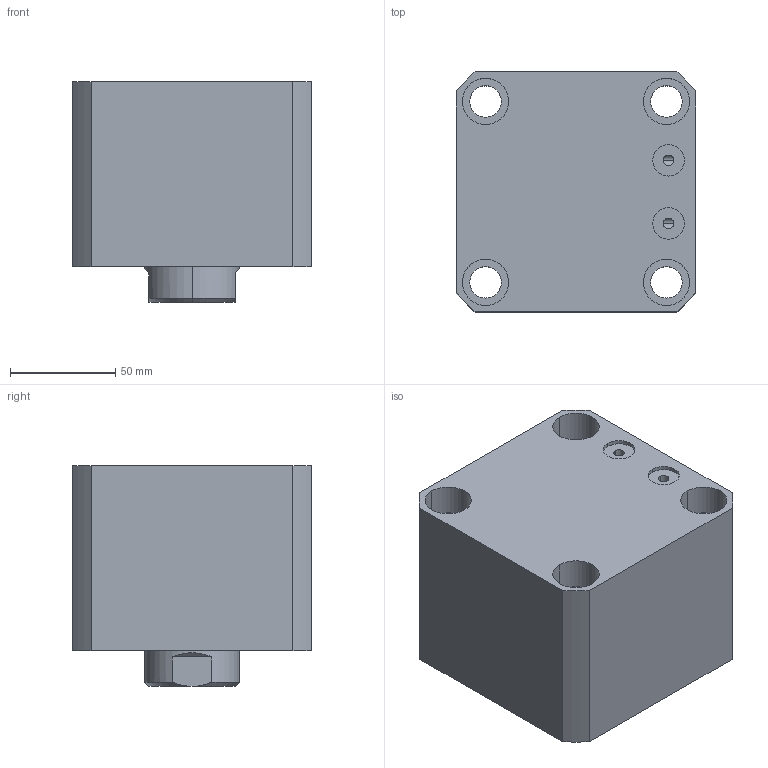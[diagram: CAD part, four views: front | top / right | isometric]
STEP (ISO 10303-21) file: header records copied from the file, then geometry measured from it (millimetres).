
FILE_DESCRIPTION (( 'STEP AP214' ), '1' );
FILE_NAME ('chtb-sdmb80x10n_asm.STEP', '2018-05-25T09:31:30', ( 'Windows' ), ( 'Microsoft' ), 'SwSTEP 2.0', 'SolidWorks 2015', '' );
FILE_SCHEMA (( 'AUTOMOTIVE_DESIGN' ));
Length unit declared in the file: millimetre
Products named in the file (4): CHTB-SDMB80X10NBT; CHTB-SD80X10NHSG; CHTB-SD80QG; chtb-sdmb80x10n_asm
Assembly tree (3 placements, depth 2):
  chtb-sdmb80x10n_asm
    CHTB-SD80QG
    CHTB-SD80X10NHSG
    CHTB-SDMB80X10NBT
Bounding box: 114 x 114 x 105 mm (x, y, z)
Volume: 996136.1 mm3; surface area: 160122.4 mm2
Topology: 3 solids, 3 shells, 190 faces, 516 edges, 345 vertices
Faces by surface type: cylinder 107, plane 35, torus 18, cone 16, bspline 14
Entity records: 15174 total; most frequent: CARTESIAN_POINT 10467, ORIENTED_EDGE 1020, DIRECTION 879, EDGE_CURVE 510, AXIS2_PLACEMENT_3D 368, VERTEX_POINT 345, EDGE_LOOP 227, FACE_OUTER_BOUND 190
